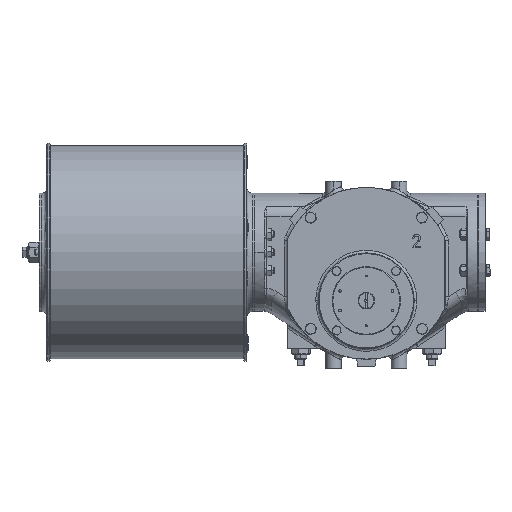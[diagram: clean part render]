
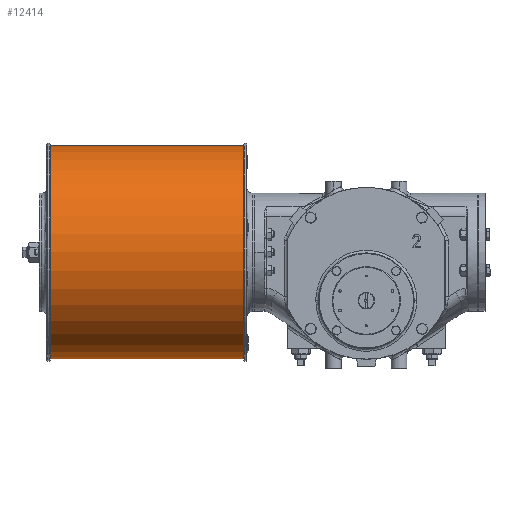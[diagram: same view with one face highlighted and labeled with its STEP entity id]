
A CAD part, top view. The second image highlights one B-rep face of the part: STEP entity #12414.
In plain terms, the highlighted cylindrical face has radius 162.5 mm (diameter 325 mm), a partial arc.
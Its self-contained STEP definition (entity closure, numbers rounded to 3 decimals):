
#2012 = VECTOR ( 'NONE', #9369, 1000. ) ;
#4739 = CARTESIAN_POINT ( 'NONE',  ( -480.523, 35.296, 2. ) ) ;
#5281 = CARTESIAN_POINT ( 'NONE',  ( -185.523, 35.296, 2. ) ) ;
#5694 = CARTESIAN_POINT ( 'NONE',  ( -185.523, -127.204, 2. ) ) ;
#7893 = CIRCLE ( 'NONE', #32505, 162.5 ) ;
#9369 = DIRECTION ( 'NONE',  ( -1., 0., 0. ) ) ;
#11543 = ORIENTED_EDGE ( 'NONE', *, *, #19383, .F. ) ;
#12414 = ADVANCED_FACE ( 'NONE', ( #47466 ), #14534, .T. ) ;
#14534 = CYLINDRICAL_SURFACE ( 'NONE', #54371, 162.5 ) ;
#14849 = DIRECTION ( 'NONE',  ( -1., 0., 0. ) ) ;
#14965 = CARTESIAN_POINT ( 'NONE',  ( -185.523, 35.296, 2. ) ) ;
#15361 = CARTESIAN_POINT ( 'NONE',  ( -185.523, 197.796, 2. ) ) ;
#16945 = EDGE_CURVE ( 'NONE', #56448, #59796, #60786, .T. ) ;
#17030 = EDGE_CURVE ( 'NONE', #59796, #47610, #7893, .T. ) ;
#18654 = DIRECTION ( 'NONE',  ( 0., -1., 0. ) ) ;
#18918 = DIRECTION ( 'NONE',  ( 0., -1., 0. ) ) ;
#18967 = CIRCLE ( 'NONE', #55344, 162.5 ) ;
#19383 = EDGE_CURVE ( 'NONE', #21092, #47610, #43856, .T. ) ;
#21092 = VERTEX_POINT ( 'NONE', #30188 ) ;
#23528 = DIRECTION ( 'NONE',  ( 1., 0., 0. ) ) ;
#24497 = DIRECTION ( 'NONE',  ( -1., 0., 0. ) ) ;
#26516 = CARTESIAN_POINT ( 'NONE',  ( -480.523, 197.796, 2. ) ) ;
#30188 = CARTESIAN_POINT ( 'NONE',  ( -185.523, -127.204, 2. ) ) ;
#30726 = EDGE_LOOP ( 'NONE', ( #55131, #45310, #45186, #11543 ) ) ;
#32505 = AXIS2_PLACEMENT_3D ( 'NONE', #4739, #23528, #18918 ) ;
#33999 = CARTESIAN_POINT ( 'NONE',  ( -185.523, 197.796, 2. ) ) ;
#38648 = DIRECTION ( 'NONE',  ( -1., 0., 0. ) ) ;
#42271 = EDGE_CURVE ( 'NONE', #21092, #56448, #18967, .T. ) ;
#42840 = DIRECTION ( 'NONE',  ( 0., -1., 0. ) ) ;
#43856 = LINE ( 'NONE', #5694, #58085 ) ;
#45186 = ORIENTED_EDGE ( 'NONE', *, *, #17030, .T. ) ;
#45310 = ORIENTED_EDGE ( 'NONE', *, *, #16945, .T. ) ;
#47466 = FACE_OUTER_BOUND ( 'NONE', #30726, .T. ) ;
#47610 = VERTEX_POINT ( 'NONE', #59107 ) ;
#54371 = AXIS2_PLACEMENT_3D ( 'NONE', #5281, #14849, #42840 ) ;
#55131 = ORIENTED_EDGE ( 'NONE', *, *, #42271, .T. ) ;
#55344 = AXIS2_PLACEMENT_3D ( 'NONE', #14965, #24497, #18654 ) ;
#56448 = VERTEX_POINT ( 'NONE', #15361 ) ;
#58085 = VECTOR ( 'NONE', #38648, 1000. ) ;
#59107 = CARTESIAN_POINT ( 'NONE',  ( -480.523, -127.204, 2. ) ) ;
#59796 = VERTEX_POINT ( 'NONE', #26516 ) ;
#60786 = LINE ( 'NONE', #33999, #2012 ) ;
